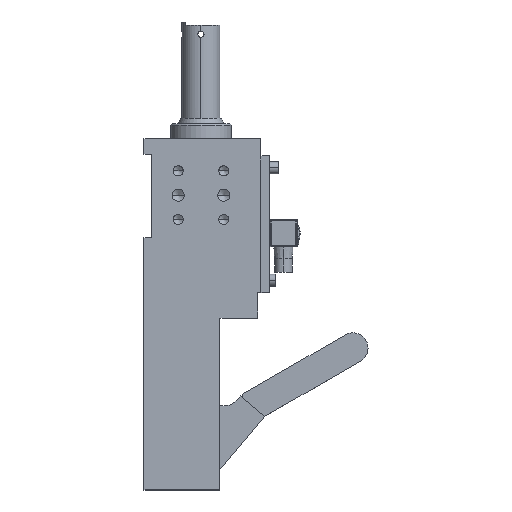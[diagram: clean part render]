
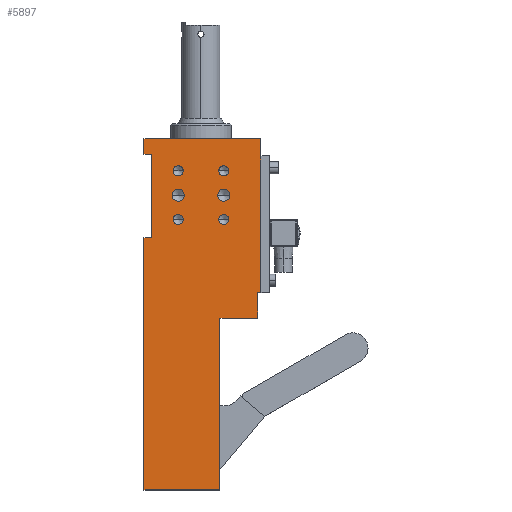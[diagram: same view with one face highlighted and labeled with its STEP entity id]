
A CAD part, top view. The second image highlights one B-rep face of the part: STEP entity #5897.
In plain terms, the highlighted planar face has unit normal (0, 0, 1).
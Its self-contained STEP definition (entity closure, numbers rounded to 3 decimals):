
#869=CARTESIAN_POINT('',(35.997,-69.021,128.24));
#870=VERTEX_POINT('',#869);
#886=CARTESIAN_POINT('',(29.35,-69.021,128.24));
#887=VERTEX_POINT('',#886);
#894=CARTESIAN_POINT('',(32.673,-69.021,128.24));
#895=DIRECTION('',(0.0,0.0,-1.0));
#896=DIRECTION('',(1.0,0.0,0.0));
#897=AXIS2_PLACEMENT_3D('',#894,#895,#896);
#898=CIRCLE('',#897,3.324);
#899=EDGE_CURVE('',#870,#887,#898,.T.);
#982=CARTESIAN_POINT('',(35.997,-37.021,128.24));
#983=VERTEX_POINT('',#982);
#999=CARTESIAN_POINT('',(29.35,-37.021,128.24));
#1000=VERTEX_POINT('',#999);
#1007=CARTESIAN_POINT('',(32.673,-37.021,128.24));
#1008=DIRECTION('',(0.0,0.0,-1.0));
#1009=DIRECTION('',(1.0,0.0,0.0));
#1010=AXIS2_PLACEMENT_3D('',#1007,#1008,#1009);
#1011=CIRCLE('',#1010,3.324);
#1012=EDGE_CURVE('',#983,#1000,#1011,.T.);
#1095=CARTESIAN_POINT('',(5.997,-37.021,128.24));
#1096=VERTEX_POINT('',#1095);
#1112=CARTESIAN_POINT('',(-0.65,-37.021,128.24));
#1113=VERTEX_POINT('',#1112);
#1120=CARTESIAN_POINT('',(2.673,-37.021,128.24));
#1121=DIRECTION('',(0.0,0.0,-1.0));
#1122=DIRECTION('',(1.0,0.0,0.0));
#1123=AXIS2_PLACEMENT_3D('',#1120,#1121,#1122);
#1124=CIRCLE('',#1123,3.324);
#1125=EDGE_CURVE('',#1096,#1113,#1124,.T.);
#1208=CARTESIAN_POINT('',(5.997,-69.021,128.24));
#1209=VERTEX_POINT('',#1208);
#1225=CARTESIAN_POINT('',(-0.65,-69.021,128.24));
#1226=VERTEX_POINT('',#1225);
#1233=CARTESIAN_POINT('',(2.673,-69.021,128.24));
#1234=DIRECTION('',(0.0,0.0,-1.0));
#1235=DIRECTION('',(1.0,0.0,0.0));
#1236=AXIS2_PLACEMENT_3D('',#1233,#1234,#1235);
#1237=CIRCLE('',#1236,3.324);
#1238=EDGE_CURVE('',#1209,#1226,#1237,.T.);
#1321=CARTESIAN_POINT('',(36.673,-53.021,128.24));
#1322=VERTEX_POINT('',#1321);
#1338=CARTESIAN_POINT('',(28.673,-53.021,128.24));
#1339=VERTEX_POINT('',#1338);
#1346=CARTESIAN_POINT('',(32.673,-53.021,128.24));
#1347=DIRECTION('',(0.0,0.0,-1.0));
#1348=DIRECTION('',(1.0,0.0,0.0));
#1349=AXIS2_PLACEMENT_3D('',#1346,#1347,#1348);
#1350=CIRCLE('',#1349,4.0);
#1351=EDGE_CURVE('',#1322,#1339,#1350,.T.);
#1434=CARTESIAN_POINT('',(6.673,-53.021,128.24));
#1435=VERTEX_POINT('',#1434);
#1451=CARTESIAN_POINT('',(-1.327,-53.021,128.24));
#1452=VERTEX_POINT('',#1451);
#1459=CARTESIAN_POINT('',(2.673,-53.021,128.24));
#1460=DIRECTION('',(0.0,0.0,-1.0));
#1461=DIRECTION('',(1.0,0.0,0.0));
#1462=AXIS2_PLACEMENT_3D('',#1459,#1460,#1461);
#1463=CIRCLE('',#1462,4.0);
#1464=EDGE_CURVE('',#1435,#1452,#1463,.T.);
#3438=CARTESIAN_POINT('',(30.173,-247.021,128.24));
#3439=VERTEX_POINT('',#3438);
#3446=CARTESIAN_POINT('',(-19.827,-247.021,128.24));
#3447=VERTEX_POINT('',#3446);
#3448=CARTESIAN_POINT('',(-19.827,-247.021,128.24));
#3449=DIRECTION('',(1.0,0.0,0.0));
#3450=VECTOR('',#3449,50.);
#3451=LINE('',#3448,#3450);
#3452=EDGE_CURVE('',#3447,#3439,#3451,.T.);
#3494=CARTESIAN_POINT('',(30.173,-134.021,128.24));
#3495=VERTEX_POINT('',#3494);
#3502=CARTESIAN_POINT('',(30.173,-247.021,128.24));
#3503=DIRECTION('',(0.0,1.0,0.0));
#3504=VECTOR('',#3503,113.0);
#3505=LINE('',#3502,#3504);
#3506=EDGE_CURVE('',#3439,#3495,#3505,.T.);
#3649=CARTESIAN_POINT('',(55.173,-134.021,128.24));
#3650=VERTEX_POINT('',#3649);
#3657=CARTESIAN_POINT('',(30.173,-134.021,128.24));
#3658=DIRECTION('',(1.0,0.0,0.0));
#3659=VECTOR('',#3658,25.);
#3660=LINE('',#3657,#3659);
#3661=EDGE_CURVE('',#3495,#3650,#3660,.T.);
#3681=CARTESIAN_POINT('',(55.173,-117.021,128.24));
#3682=VERTEX_POINT('',#3681);
#3689=CARTESIAN_POINT('',(55.173,-134.021,128.24));
#3690=DIRECTION('',(0.0,1.0,0.0));
#3691=VECTOR('',#3690,17.);
#3692=LINE('',#3689,#3691);
#3693=EDGE_CURVE('',#3650,#3682,#3692,.T.);
#4368=CARTESIAN_POINT('',(-14.827,-81.021,128.24));
#4369=VERTEX_POINT('',#4368);
#4376=CARTESIAN_POINT('',(-14.827,-26.021,128.24));
#4377=VERTEX_POINT('',#4376);
#4378=CARTESIAN_POINT('',(-14.827,-26.021,128.24));
#4379=DIRECTION('',(0.0,-1.0,0.0));
#4380=VECTOR('',#4379,55.);
#4381=LINE('',#4378,#4380);
#4382=EDGE_CURVE('',#4377,#4369,#4381,.T.);
#4948=CARTESIAN_POINT('',(2.673,-53.021,128.24));
#4949=DIRECTION('',(0.0,0.0,-1.0));
#4950=DIRECTION('',(1.0,0.0,0.0));
#4951=AXIS2_PLACEMENT_3D('',#4948,#4949,#4950);
#4952=CIRCLE('',#4951,4.0);
#4953=EDGE_CURVE('',#1452,#1435,#4952,.T.);
#5019=CARTESIAN_POINT('',(32.673,-53.021,128.24));
#5020=DIRECTION('',(0.0,0.0,-1.0));
#5021=DIRECTION('',(1.0,0.0,0.0));
#5022=AXIS2_PLACEMENT_3D('',#5019,#5020,#5021);
#5023=CIRCLE('',#5022,4.0);
#5024=EDGE_CURVE('',#1339,#1322,#5023,.T.);
#5090=CARTESIAN_POINT('',(2.673,-69.021,128.24));
#5091=DIRECTION('',(0.0,0.0,-1.0));
#5092=DIRECTION('',(1.0,0.0,0.0));
#5093=AXIS2_PLACEMENT_3D('',#5090,#5091,#5092);
#5094=CIRCLE('',#5093,3.324);
#5095=EDGE_CURVE('',#1226,#1209,#5094,.T.);
#5161=CARTESIAN_POINT('',(2.673,-37.021,128.24));
#5162=DIRECTION('',(0.0,0.0,-1.0));
#5163=DIRECTION('',(1.0,0.0,0.0));
#5164=AXIS2_PLACEMENT_3D('',#5161,#5162,#5163);
#5165=CIRCLE('',#5164,3.324);
#5166=EDGE_CURVE('',#1113,#1096,#5165,.T.);
#5232=CARTESIAN_POINT('',(32.673,-37.021,128.24));
#5233=DIRECTION('',(0.0,0.0,-1.0));
#5234=DIRECTION('',(1.0,0.0,0.0));
#5235=AXIS2_PLACEMENT_3D('',#5232,#5233,#5234);
#5236=CIRCLE('',#5235,3.324);
#5237=EDGE_CURVE('',#1000,#983,#5236,.T.);
#5303=CARTESIAN_POINT('',(32.673,-69.021,128.24));
#5304=DIRECTION('',(0.0,0.0,-1.0));
#5305=DIRECTION('',(1.0,0.0,0.0));
#5306=AXIS2_PLACEMENT_3D('',#5303,#5304,#5305);
#5307=CIRCLE('',#5306,3.324);
#5308=EDGE_CURVE('',#887,#870,#5307,.T.);
#5766=CARTESIAN_POINT('',(-19.827,-26.021,128.24));
#5767=VERTEX_POINT('',#5766);
#5768=CARTESIAN_POINT('',(-19.827,-26.021,128.24));
#5769=DIRECTION('',(1.0,0.0,0.0));
#5770=VECTOR('',#5769,5.);
#5771=LINE('',#5768,#5770);
#5772=EDGE_CURVE('',#5767,#4377,#5771,.T.);
#5797=CARTESIAN_POINT('',(-19.827,-81.021,128.24));
#5798=VERTEX_POINT('',#5797);
#5799=CARTESIAN_POINT('',(-14.827,-81.021,128.24));
#5800=DIRECTION('',(-1.0,0.0,0.0));
#5801=VECTOR('',#5800,5.);
#5802=LINE('',#5799,#5801);
#5803=EDGE_CURVE('',#4369,#5798,#5802,.T.);
#5823=CARTESIAN_POINT('',(18.673,-66.521,128.24));
#5824=DIRECTION('',(0.0,0.0,1.0));
#5825=DIRECTION('',(1.0,0.0,0.0));
#5826=AXIS2_PLACEMENT_3D('',#5823,#5824,#5825);
#5827=PLANE('',#5826);
#5828=ORIENTED_EDGE('',*,*,#5772,.T.);
#5829=ORIENTED_EDGE('',*,*,#4382,.T.);
#5830=ORIENTED_EDGE('',*,*,#5803,.T.);
#5831=CARTESIAN_POINT('',(-19.827,-247.021,128.24));
#5832=DIRECTION('',(0.0,1.0,0.0));
#5833=VECTOR('',#5832,166.0);
#5834=LINE('',#5831,#5833);
#5835=EDGE_CURVE('',#3447,#5798,#5834,.T.);
#5836=ORIENTED_EDGE('',*,*,#5835,.F.);
#5837=ORIENTED_EDGE('',*,*,#3452,.T.);
#5838=ORIENTED_EDGE('',*,*,#3506,.T.);
#5839=ORIENTED_EDGE('',*,*,#3661,.T.);
#5840=ORIENTED_EDGE('',*,*,#3693,.T.);
#5841=CARTESIAN_POINT('',(57.173,-117.021,128.24));
#5842=VERTEX_POINT('',#5841);
#5843=CARTESIAN_POINT('',(57.173,-117.021,128.24));
#5844=DIRECTION('',(-1.0,0.0,0.0));
#5845=VECTOR('',#5844,2.);
#5846=LINE('',#5843,#5845);
#5847=EDGE_CURVE('',#5842,#3682,#5846,.T.);
#5848=ORIENTED_EDGE('',*,*,#5847,.F.);
#5849=CARTESIAN_POINT('',(57.173,-16.021,128.24));
#5850=VERTEX_POINT('',#5849);
#5851=CARTESIAN_POINT('',(57.173,-16.021,128.24));
#5852=DIRECTION('',(0.0,-1.0,0.0));
#5853=VECTOR('',#5852,101.0);
#5854=LINE('',#5851,#5853);
#5855=EDGE_CURVE('',#5850,#5842,#5854,.T.);
#5856=ORIENTED_EDGE('',*,*,#5855,.F.);
#5857=CARTESIAN_POINT('',(-19.827,-16.021,128.24));
#5858=VERTEX_POINT('',#5857);
#5859=CARTESIAN_POINT('',(-19.827,-16.021,128.24));
#5860=DIRECTION('',(1.0,0.0,0.0));
#5861=VECTOR('',#5860,77.);
#5862=LINE('',#5859,#5861);
#5863=EDGE_CURVE('',#5858,#5850,#5862,.T.);
#5864=ORIENTED_EDGE('',*,*,#5863,.F.);
#5865=CARTESIAN_POINT('',(-19.827,-26.021,128.24));
#5866=DIRECTION('',(0.0,1.0,0.0));
#5867=VECTOR('',#5866,10.0);
#5868=LINE('',#5865,#5867);
#5869=EDGE_CURVE('',#5767,#5858,#5868,.T.);
#5870=ORIENTED_EDGE('',*,*,#5869,.F.);
#5871=EDGE_LOOP('',(#5828,#5829,#5830,#5836,#5837,#5838,#5839,#5840,#5848,#5856,#5864,#5870));
#5872=FACE_OUTER_BOUND('',#5871,.T.);
#5873=ORIENTED_EDGE('',*,*,#1464,.T.);
#5874=ORIENTED_EDGE('',*,*,#4953,.T.);
#5875=EDGE_LOOP('',(#5873,#5874));
#5876=FACE_BOUND('',#5875,.T.);
#5877=ORIENTED_EDGE('',*,*,#1351,.T.);
#5878=ORIENTED_EDGE('',*,*,#5024,.T.);
#5879=EDGE_LOOP('',(#5877,#5878));
#5880=FACE_BOUND('',#5879,.T.);
#5881=ORIENTED_EDGE('',*,*,#1238,.T.);
#5882=ORIENTED_EDGE('',*,*,#5095,.T.);
#5883=EDGE_LOOP('',(#5881,#5882));
#5884=FACE_BOUND('',#5883,.T.);
#5885=ORIENTED_EDGE('',*,*,#1125,.T.);
#5886=ORIENTED_EDGE('',*,*,#5166,.T.);
#5887=EDGE_LOOP('',(#5885,#5886));
#5888=FACE_BOUND('',#5887,.T.);
#5889=ORIENTED_EDGE('',*,*,#1012,.T.);
#5890=ORIENTED_EDGE('',*,*,#5237,.T.);
#5891=EDGE_LOOP('',(#5889,#5890));
#5892=FACE_BOUND('',#5891,.T.);
#5893=ORIENTED_EDGE('',*,*,#899,.T.);
#5894=ORIENTED_EDGE('',*,*,#5308,.T.);
#5895=EDGE_LOOP('',(#5893,#5894));
#5896=FACE_BOUND('',#5895,.T.);
#5897=ADVANCED_FACE('',(#5872,#5876,#5880,#5884,#5888,#5892,#5896),#5827,.T.);
